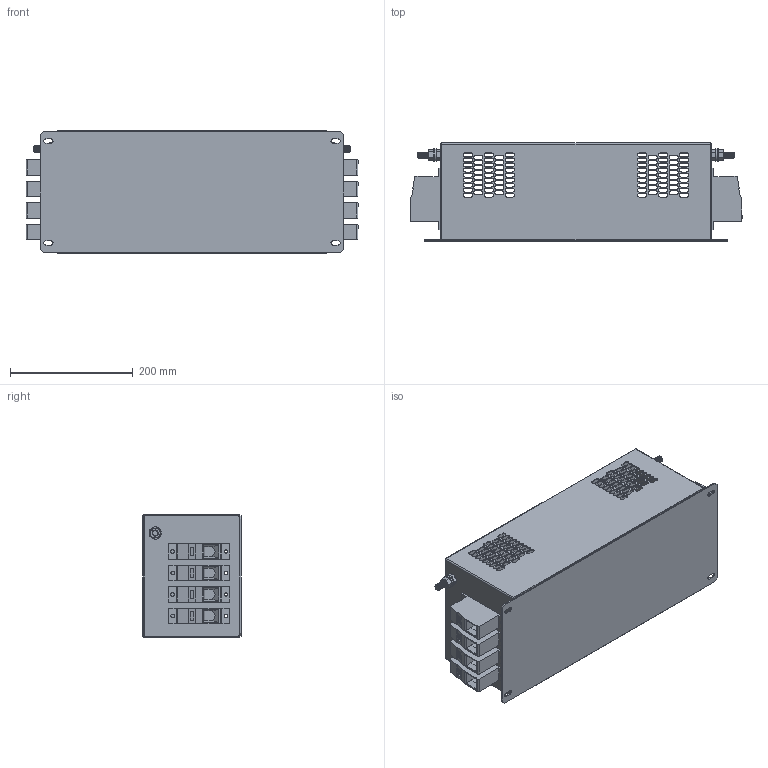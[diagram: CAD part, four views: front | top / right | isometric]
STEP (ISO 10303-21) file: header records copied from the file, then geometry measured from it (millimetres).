
FILE_DESCRIPTION (( 'STEP AP203' ), '1' );
FILE_NAME ('NF-KC-DAR2-180-4.STEP', '2025-09-29T15:38:13', ( '' ), ( '' ), 'SwSTEP 2.0', 'SolidWorks 2017', '' );
FILE_SCHEMA (( 'CONFIG_CONTROL_DESIGN' ));
Length unit declared in the file: millimetre
Products named in the file (7): hex screw_am_B18.6.7M - M10 x 1.5 x 30 Indented HHMS --30S; NF-KC-DAR2-180-4; HDFK-95; DLC-H4 vented; flat washer narrow_am_B18.22M - Plain washer, 10 mm, narrow; M10x30 Earth post; hex nut style 1_am_B18.2.4.1M - Hex nut, Style 1,  M10 x 1.5, with 16mm WAF --D-N
Assembly tree (15 placements, depth 3):
  NF-KC-DAR2-180-4
    DLC-H4 vented
    M10x30 Earth post  x2
      flat washer narrow_am_B18.22M - Plain washer, 10 mm, narrow
      hex nut style 1_am_B18.2.4.1M - Hex nut, Style 1,  M10 x 1.5, with 16mm WAF --D-N
      hex screw_am_B18.6.7M - M10 x 1.5 x 30 Indented HHMS --30S
    HDFK-95  x8
Bounding box: 541 x 160 x 200 mm (x, y, z)
Volume: 1263404.1 mm3; surface area: 990994.9 mm2
Topology: 17 solids, 17 shells, 1948 faces, 5344 edges, 3484 vertices
Faces by surface type: plane 968, cylinder 772, cone 200, sphere 8
Entity records: 41479 total; most frequent: DIRECTION 7216, CARTESIAN_POINT 7108, ORIENTED_EDGE 6864, EDGE_CURVE 3432, AXIS2_PLACEMENT_3D 2602, VERTEX_POINT 2254, VECTOR 2012, LINE 2012
